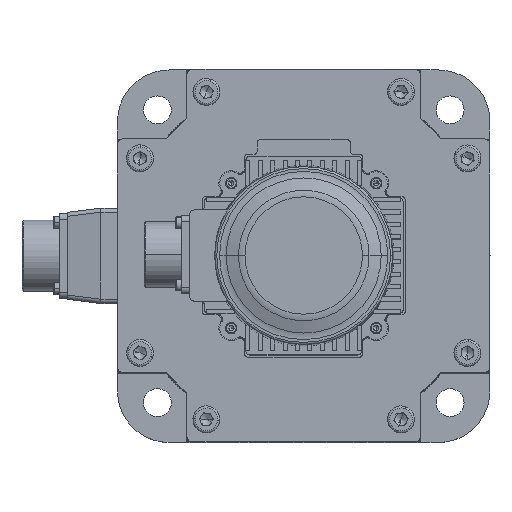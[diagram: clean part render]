
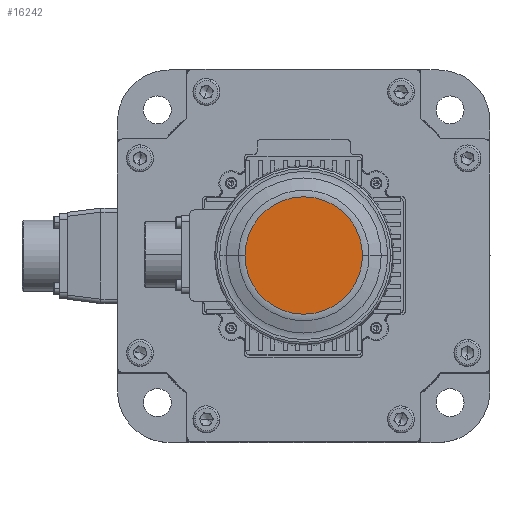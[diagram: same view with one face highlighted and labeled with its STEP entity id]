
A CAD part, top view. The second image highlights one B-rep face of the part: STEP entity #16242.
In plain terms, the highlighted planar face has unit normal (0, 0, 1) as drawn and (0, 0, -1) by its records, which use the part's own axes.
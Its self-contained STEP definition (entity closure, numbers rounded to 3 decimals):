
#7548 = DIRECTION ( 'NONE',  ( 1., 0., 0. ) ) ;
#16242 = ADVANCED_FACE ( 'NONE', ( #84937 ), #102941, .F. ) ;
#26479 = AXIS2_PLACEMENT_3D ( 'NONE', #39421, #55600, #7548 ) ;
#33871 = CARTESIAN_POINT ( 'NONE',  ( 0., 0., 48.762 ) ) ;
#39421 = CARTESIAN_POINT ( 'NONE',  ( 0., 28.377, 48.762 ) ) ;
#41631 = ORIENTED_EDGE ( 'NONE', *, *, #94504, .F. ) ;
#41918 = DIRECTION ( 'NONE',  ( 1., 0., 0. ) ) ;
#45838 = ORIENTED_EDGE ( 'NONE', *, *, #81632, .F. ) ;
#46398 = CARTESIAN_POINT ( 'NONE',  ( 0., 0., 48.762 ) ) ;
#50227 = AXIS2_PLACEMENT_3D ( 'NONE', #33871, #89987, #41918 ) ;
#54488 = DIRECTION ( 'NONE',  ( 1., 0., 0. ) ) ;
#55600 = DIRECTION ( 'NONE',  ( 0., 0., 1. ) ) ;
#56497 = CARTESIAN_POINT ( 'NONE',  ( 28.377, 0., 48.762 ) ) ;
#59151 = CARTESIAN_POINT ( 'NONE',  ( -28.377, 0., 48.762 ) ) ;
#63121 = VERTEX_POINT ( 'NONE', #56497 ) ;
#65453 = CIRCLE ( 'NONE', #80022, 28.377 ) ;
#66034 = VERTEX_POINT ( 'NONE', #59151 ) ;
#80022 = AXIS2_PLACEMENT_3D ( 'NONE', #46398, #102517, #54488 ) ;
#81632 = EDGE_CURVE ( 'NONE', #63121, #66034, #95769, .T. ) ;
#84937 = FACE_OUTER_BOUND ( 'NONE', #88289, .T. ) ;
#88289 = EDGE_LOOP ( 'NONE', ( #45838, #41631 ) ) ;
#89987 = DIRECTION ( 'NONE',  ( 0., 0., 1. ) ) ;
#94504 = EDGE_CURVE ( 'NONE', #66034, #63121, #65453, .T. ) ;
#95769 = CIRCLE ( 'NONE', #50227, 28.377 ) ;
#102517 = DIRECTION ( 'NONE',  ( 0., 0., 1. ) ) ;
#102941 = PLANE ( 'NONE',  #26479 ) ;
